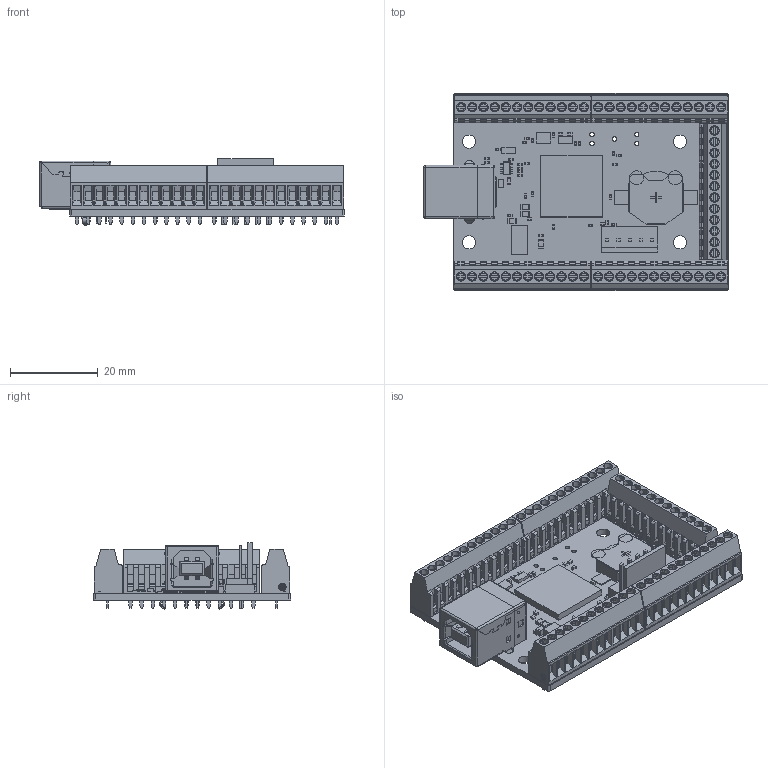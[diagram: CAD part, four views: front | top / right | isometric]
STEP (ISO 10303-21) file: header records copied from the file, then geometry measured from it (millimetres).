
FILE_DESCRIPTION(('Open CASCADE Model'),'2;1');
FILE_NAME('Open CASCADE Shape Model','2017-02-01T22:29:33',('Author'),( 'Open CASCADE'),'Open CASCADE STEP processor 6.8','Open CASCADE 6.8' ,'Unknown');
FILE_SCHEMA(('AUTOMOTIVE_DESIGN { 1 0 10303 214 1 1 1 1 }'));
Length unit declared in the file: millimetre
Products named in the file (133): PCB; Board; L2; 744231xxx_0805; Geh\X2\00E4\X0\use; Boden; L\X2\00F6\X0\tfl\X2\00E4\X0\che; D1; 824014; R12; 1195391688; Extruded; 1195391552; C19; 1195391824; 1195392096; EXT; 1195386248; 1195391280; 1195391144; 1195391008; R11; R10; C2; 1195391960; C3; C4; C5; C7; C8; C9; C10; 1195384752; 1195385296; C11; 1195394136; 1195394000; C12; C13; C14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
Assembly tree (237 placements, depth 4):
  PCB
    Board
    L2
      744231xxx_0805
        Geh\X2\00E4\X0\use
        Geh\X2\00E4\X0\use
        Geh\X2\00E4\X0\use
        Boden
        L\X2\00F6\X0\tfl\X2\00E4\X0\che  x4
    D1
      824014
    R12
      1195391688  x2
        Extruded
      1195391552
        Extruded
    C19
      1195391824
        Extruded
      1195392096  x2
        Extruded
    EXT
      1195386248  x4
        Extruded
      1195391280
        Extruded
      1195391144
        Extruded
      1195391008
        Extruded
    R11
      1195391688  x2
        Extruded
      1195391552
        Extruded
    R10
      1195391688  x2
        Extruded
      1195391552
        Extruded
    C2
      1195391960  x2
        Extruded
      1195391824
        Extruded
    C3
      1195392096  x2
        Extruded
      1195391824
        Extruded
    C4
      1195392096  x2
        Extruded
      1195391824
        Extruded
    C5
      1195392096  x2
        Extruded
      1195391824
        Extruded
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Bounding box: 69.31 x 44.9 x 15.19 mm (x, y, z)
Volume: 14163 mm3; surface area: 20949.8 mm2
Topology: 151 solids, 211 shells, 6275 faces, 15777 edges, 10295 vertices
Faces by surface type: plane 4645, cylinder 1275, cone 240, bspline 71, torus 44
Full cylindrical faces by diameter (mm): 0.05 x58, 0.92 x4, 0.991 x5, 1 x5, 1.1 x60, 2.3 x2, 3 x4, 3.2 x2, 12 x1
Entity records: 208918 total; most frequent: CARTESIAN_POINT 94790, DIRECTION 19317, LINE 11929, VECTOR 11929, ORIENTED_EDGE 11274, PCURVE 11274, DEFINITIONAL_REPRESENTATION 11274, EDGE_CURVE 5637
